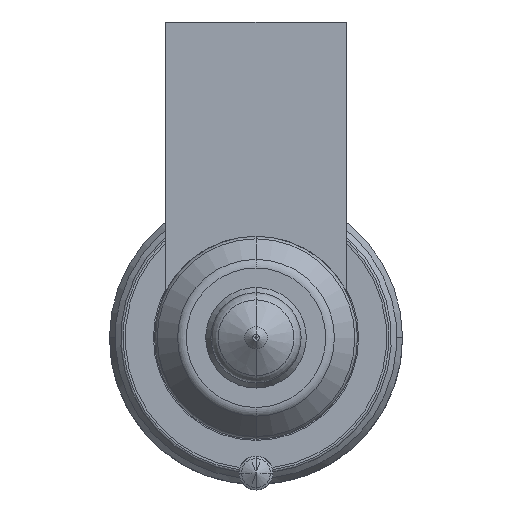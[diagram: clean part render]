
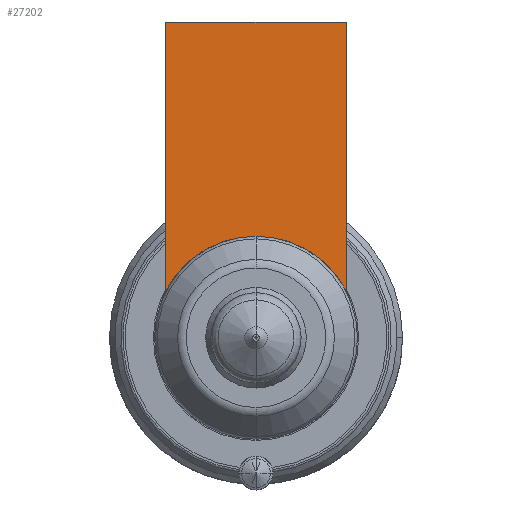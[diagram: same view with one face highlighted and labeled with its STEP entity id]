
A CAD part, front view. The second image highlights one B-rep face of the part: STEP entity #27202.
In plain terms, the highlighted planar face has unit normal (0, -1, 0).
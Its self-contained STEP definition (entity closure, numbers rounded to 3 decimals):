
#26389=DIRECTION('',(1.,0.,0.));
#26390=VECTOR('',#26389,16.);
#26391=CARTESIAN_POINT('',(-8.,-54.,28.));
#26392=LINE('',#26391,#26390);
#26397=CARTESIAN_POINT('',(0.,-54.,0.));
#26398=DIRECTION('',(0.,-1.,0.));
#26399=DIRECTION('',(0.889,0.,0.458));
#26400=AXIS2_PLACEMENT_3D('',#26397,#26398,#26399);
#26405=CARTESIAN_POINT('',(0.,-54.,0.));
#26406=DIRECTION('',(0.,-1.,0.));
#26407=DIRECTION('',(0.,0.,1.));
#26408=AXIS2_PLACEMENT_3D('',#26405,#26406,#26407);
#26434=DIRECTION('',(0.,0.,-1.));
#26435=VECTOR('',#26434,23.877);
#26436=CARTESIAN_POINT('',(-8.,-54.,28.));
#26437=LINE('',#26436,#26435);
#27054=DIRECTION('',(0.,0.,-1.));
#27055=VECTOR('',#27054,23.877);
#27056=CARTESIAN_POINT('',(8.,-54.,28.));
#27057=LINE('',#27056,#27055);
#27107=CARTESIAN_POINT('',(-8.,-54.,28.));
#27108=VERTEX_POINT('',#27107);
#27113=CARTESIAN_POINT('',(8.,-54.,28.));
#27114=VERTEX_POINT('',#27113);
#27117=CARTESIAN_POINT('',(-8.,-54.,4.123));
#27118=VERTEX_POINT('',#27117);
#27121=CARTESIAN_POINT('',(8.,-54.,4.123));
#27122=VERTEX_POINT('',#27121);
#27183=CARTESIAN_POINT('',(0.,-54.,9.));
#27184=VERTEX_POINT('',#27183);
#27185=CARTESIAN_POINT('',(0.,-54.,9.));
#27186=DIRECTION('',(0.,1.,0.));
#27187=DIRECTION('',(0.,0.,-1.));
#27188=AXIS2_PLACEMENT_3D('',#27185,#27186,#27187);
#27189=PLANE('',#27188);
#27191=ORIENTED_EDGE('',*,*,#27190,.F.);
#27193=ORIENTED_EDGE('',*,*,#27192,.T.);
#27195=ORIENTED_EDGE('',*,*,#27194,.T.);
#27197=ORIENTED_EDGE('',*,*,#27196,.T.);
#27199=ORIENTED_EDGE('',*,*,#27198,.T.);
#27200=EDGE_LOOP('',(#27191,#27193,#27195,#27197,#27199));
#27201=FACE_OUTER_BOUND('',#27200,.F.);
#27202=ADVANCED_FACE('',(#27201),#27189,.F.);
#26401=CIRCLE('',#26400,9.);
#26409=CIRCLE('',#26408,9.);
#27190=EDGE_CURVE('',#27108,#27118,#26437,.T.);
#27192=EDGE_CURVE('',#27108,#27114,#26392,.T.);
#27194=EDGE_CURVE('',#27114,#27122,#27057,.T.);
#27196=EDGE_CURVE('',#27122,#27184,#26401,.T.);
#27198=EDGE_CURVE('',#27184,#27118,#26409,.T.);
